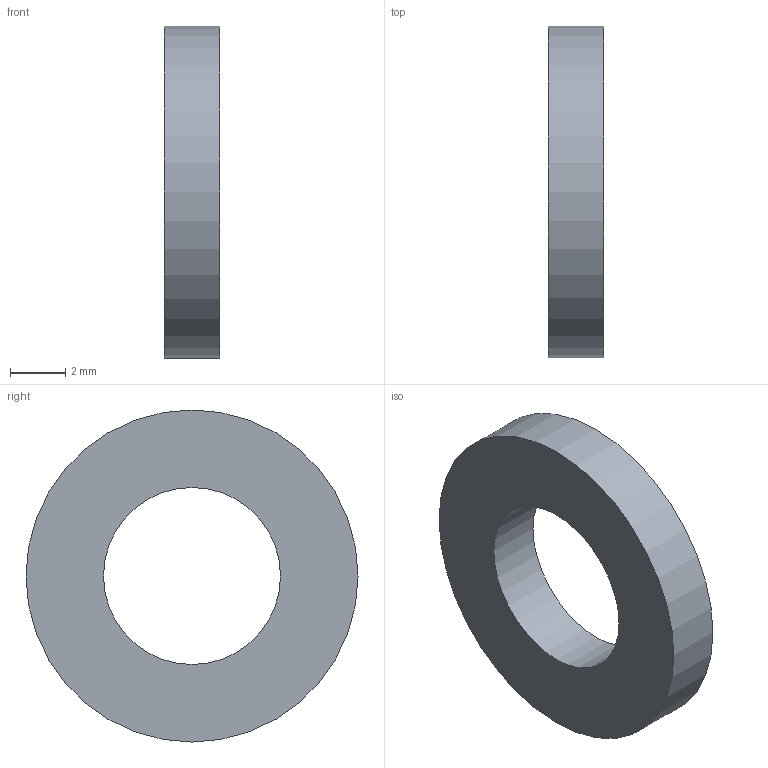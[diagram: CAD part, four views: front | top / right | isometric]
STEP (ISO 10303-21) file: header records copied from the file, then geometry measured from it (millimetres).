
FILE_DESCRIPTION(/* description */ (''),/* implementation_level */ '2;1');
FILE_NAME(/* name */ '',/* time_stamp */ '2026-03-26T11:23:26+09:00',/* author */ ('jhkim'),/* organization */ (''),/* preprocessor_version */ 'ST-DEVELOPER v20.1',/* originating_system */ 'Autodesk Inventor 2026',/* authorisation */ '');
FILE_SCHEMA (('AUTOMOTIVE_DESIGN { 1 0 10303 214 3 1 1 }'));
Length unit declared in the file: millimetre
Products named in the file (1): 실링
Bounding box: 2 x 12 x 12 mm (x, y, z)
Volume: 161.9 mm3; surface area: 277.5 mm2
Topology: 1 solids, 1 shells, 4 faces, 6 edges, 4 vertices
Faces by surface type: cylinder 2, plane 2
Full cylindrical faces by diameter (mm): 6.4 x1, 12 x1
Entity records: 141 total; most frequent: DIRECTION 20, CARTESIAN_POINT 15, ORIENTED_EDGE 12, AXIS2_PLACEMENT_3D 9, EDGE_LOOP 6, EDGE_CURVE 6, FACE_OUTER_BOUND 4, CIRCLE 4
